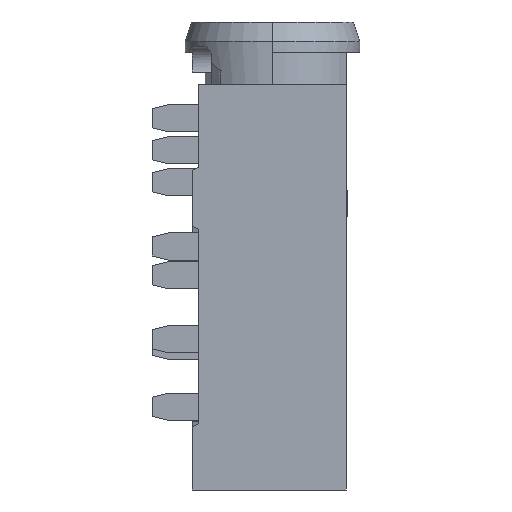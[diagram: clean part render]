
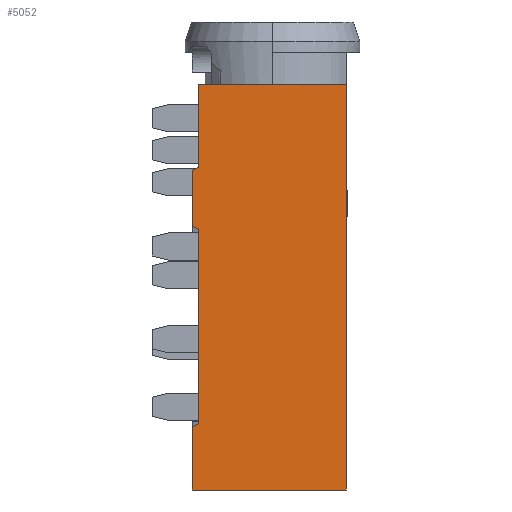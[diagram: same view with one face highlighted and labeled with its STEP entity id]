
A CAD part, left-side view. The second image highlights one B-rep face of the part: STEP entity #5052.
In plain terms, the highlighted planar face has unit normal (-1, 0, 0).
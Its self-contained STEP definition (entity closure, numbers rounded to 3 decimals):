
#24 = PLANE ( 'NONE',  #1150 ) ;
#99 = EDGE_CURVE ( 'NONE', #2651, #410, #5248, .T. ) ;
#236 = VECTOR ( 'NONE', #6561, 1000. ) ;
#305 = CARTESIAN_POINT ( 'NONE',  ( 34.225, 55.467, -12.539 ) ) ;
#410 = VERTEX_POINT ( 'NONE', #7199 ) ;
#421 = ORIENTED_EDGE ( 'NONE', *, *, #4109, .F. ) ;
#558 = DIRECTION ( 'NONE',  ( 0., 0., 1. ) ) ;
#713 = DIRECTION ( 'NONE',  ( 0., 0., 1. ) ) ;
#971 = DIRECTION ( 'NONE',  ( 0., 0., -1. ) ) ;
#1150 = AXIS2_PLACEMENT_3D ( 'NONE', #2629, #6381, #558 ) ;
#1155 = CARTESIAN_POINT ( 'NONE',  ( 34.225, 55.467, -1.95 ) ) ;
#1235 = CARTESIAN_POINT ( 'NONE',  ( 34.225, 50.867, -1.95 ) ) ;
#1403 = EDGE_CURVE ( 'NONE', #2651, #3129, #1425, .T. ) ;
#1425 = LINE ( 'NONE', #6053, #7827 ) ;
#1488 = CARTESIAN_POINT ( 'NONE',  ( 34.225, 55.467, -1.95 ) ) ;
#1494 = ORIENTED_EDGE ( 'NONE', *, *, #1403, .F. ) ;
#1623 = CARTESIAN_POINT ( 'NONE',  ( 34.225, 55.667, -6.375 ) ) ;
#1825 = VERTEX_POINT ( 'NONE', #7941 ) ;
#1948 = VECTOR ( 'NONE', #8253, 1000. ) ;
#2251 = LINE ( 'NONE', #6786, #6554 ) ;
#2334 = EDGE_CURVE ( 'NONE', #6186, #1825, #4456, .T. ) ;
#2340 = CARTESIAN_POINT ( 'NONE',  ( 34.225, 55.467, -4.539 ) ) ;
#2394 = VERTEX_POINT ( 'NONE', #1235 ) ;
#2418 = EDGE_CURVE ( 'NONE', #4139, #2394, #5854, .T. ) ;
#2629 = CARTESIAN_POINT ( 'NONE',  ( 34.225, 51.817, -14. ) ) ;
#2651 = VERTEX_POINT ( 'NONE', #1623 ) ;
#2687 = ORIENTED_EDGE ( 'NONE', *, *, #2334, .F. ) ;
#3066 = LINE ( 'NONE', #1155, #7323 ) ;
#3129 = VERTEX_POINT ( 'NONE', #6697 ) ;
#3138 = EDGE_CURVE ( 'NONE', #7720, #6324, #4056, .T. ) ;
#3247 = VECTOR ( 'NONE', #6657, 1000. ) ;
#3345 = LINE ( 'NONE', #5937, #4954 ) ;
#3361 = LINE ( 'NONE', #7357, #3923 ) ;
#3541 = EDGE_CURVE ( 'NONE', #1825, #7104, #3361, .T. ) ;
#3737 = DIRECTION ( 'NONE',  ( 0., -1., 0. ) ) ;
#3900 = ORIENTED_EDGE ( 'NONE', *, *, #99, .T. ) ;
#3923 = VECTOR ( 'NONE', #4818, 1000. ) ;
#3963 = CARTESIAN_POINT ( 'NONE',  ( 34.225, 55.667, -6.375 ) ) ;
#4056 = LINE ( 'NONE', #4688, #3247 ) ;
#4109 = EDGE_CURVE ( 'NONE', #7720, #2394, #3066, .T. ) ;
#4139 = VERTEX_POINT ( 'NONE', #8098 ) ;
#4213 = FACE_OUTER_BOUND ( 'NONE', #5601, .T. ) ;
#4456 = LINE ( 'NONE', #6380, #7302 ) ;
#4688 = CARTESIAN_POINT ( 'NONE',  ( 34.225, 55.467, -1.95 ) ) ;
#4818 = DIRECTION ( 'NONE',  ( 0., -0.919, 0.394 ) ) ;
#4954 = VECTOR ( 'NONE', #7887, 1000. ) ;
#4965 = EDGE_CURVE ( 'NONE', #6186, #4139, #3345, .T. ) ;
#5048 = ORIENTED_EDGE ( 'NONE', *, *, #7162, .F. ) ;
#5052 = ADVANCED_FACE ( 'NONE', ( #4213 ), #24, .T. ) ;
#5090 = ORIENTED_EDGE ( 'NONE', *, *, #4965, .T. ) ;
#5100 = CARTESIAN_POINT ( 'NONE',  ( 34.225, 50.867, -14.6 ) ) ;
#5248 = LINE ( 'NONE', #3963, #236 ) ;
#5294 = CARTESIAN_POINT ( 'NONE',  ( 34.225, 55.667, -14.6 ) ) ;
#5601 = EDGE_LOOP ( 'NONE', ( #1494, #3900, #6710, #7889, #2687, #5090, #5722, #421, #7196, #5048 ) ) ;
#5722 = ORIENTED_EDGE ( 'NONE', *, *, #2418, .T. ) ;
#5854 = LINE ( 'NONE', #5100, #7712 ) ;
#5937 = CARTESIAN_POINT ( 'NONE',  ( 34.225, 55.667, -14.6 ) ) ;
#6053 = CARTESIAN_POINT ( 'NONE',  ( 34.225, 55.667, -6.375 ) ) ;
#6186 = VERTEX_POINT ( 'NONE', #5294 ) ;
#6297 = LINE ( 'NONE', #7006, #1948 ) ;
#6300 = EDGE_CURVE ( 'NONE', #410, #7104, #2251, .T. ) ;
#6324 = VERTEX_POINT ( 'NONE', #2340 ) ;
#6380 = CARTESIAN_POINT ( 'NONE',  ( 34.225, 55.667, -14.6 ) ) ;
#6381 = DIRECTION ( 'NONE',  ( -1., 0., 0. ) ) ;
#6554 = VECTOR ( 'NONE', #971, 1000. ) ;
#6561 = DIRECTION ( 'NONE',  ( 0., -0.919, -0.394 ) ) ;
#6657 = DIRECTION ( 'NONE',  ( 0., 0., -1. ) ) ;
#6697 = CARTESIAN_POINT ( 'NONE',  ( 34.225, 55.667, -4.625 ) ) ;
#6710 = ORIENTED_EDGE ( 'NONE', *, *, #6300, .T. ) ;
#6786 = CARTESIAN_POINT ( 'NONE',  ( 34.225, 55.467, -6.461 ) ) ;
#7006 = CARTESIAN_POINT ( 'NONE',  ( 34.225, 55.667, -4.625 ) ) ;
#7104 = VERTEX_POINT ( 'NONE', #305 ) ;
#7162 = EDGE_CURVE ( 'NONE', #3129, #6324, #6297, .T. ) ;
#7196 = ORIENTED_EDGE ( 'NONE', *, *, #3138, .T. ) ;
#7199 = CARTESIAN_POINT ( 'NONE',  ( 34.225, 55.467, -6.461 ) ) ;
#7302 = VECTOR ( 'NONE', #713, 1000. ) ;
#7323 = VECTOR ( 'NONE', #3737, 1000. ) ;
#7357 = CARTESIAN_POINT ( 'NONE',  ( 34.225, 55.667, -12.625 ) ) ;
#7712 = VECTOR ( 'NONE', #8394, 1000. ) ;
#7720 = VERTEX_POINT ( 'NONE', #1488 ) ;
#7827 = VECTOR ( 'NONE', #7918, 1000. ) ;
#7887 = DIRECTION ( 'NONE',  ( 0., -1., 0. ) ) ;
#7889 = ORIENTED_EDGE ( 'NONE', *, *, #3541, .F. ) ;
#7918 = DIRECTION ( 'NONE',  ( 0., 0., 1. ) ) ;
#7941 = CARTESIAN_POINT ( 'NONE',  ( 34.225, 55.667, -12.625 ) ) ;
#8098 = CARTESIAN_POINT ( 'NONE',  ( 34.225, 50.867, -14.6 ) ) ;
#8253 = DIRECTION ( 'NONE',  ( 0., -0.919, 0.394 ) ) ;
#8394 = DIRECTION ( 'NONE',  ( 0., 0., 1. ) ) ;
